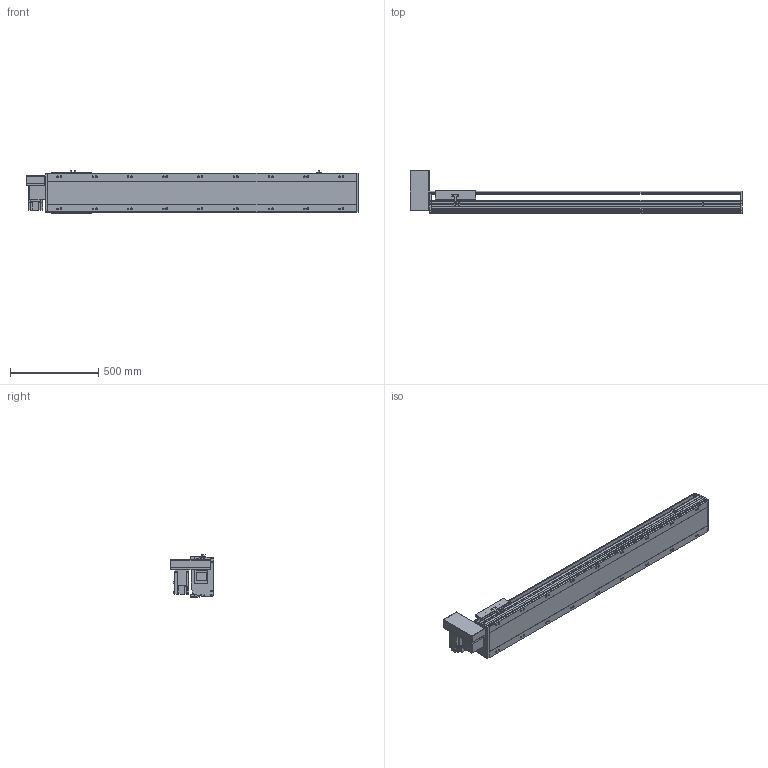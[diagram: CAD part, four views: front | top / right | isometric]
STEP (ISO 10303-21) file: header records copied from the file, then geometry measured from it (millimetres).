
FILE_DESCRIPTION(/* description */ ('STEP AP214'),/* implementation_level */ '2;1');
FILE_NAME(/* name */ 'PBS220-P40-S1400-RU-T75-C1-N(0)',/* time_stamp */ '2022-06-13T02:54:48+02:00',/* author */ ('License CC BY-ND 4.0'),/* organization */ ('CADENAS'),/* preprocessor_version */ 'ST-DEVELOPER v18.102',/* originating_system */ 'PARTsolutions',/* authorisation */ ' ');
FILE_SCHEMA (('AP242_MANAGED_MODEL_BASED_3D_ENGINEERING_MIM_LF { 1 0 10303 442 1 1 4 }','AUTOMOTIVE_DESIGN {1 0 10303 214 3 1 1}'));
Length unit declared in the file: millimetre
Products named in the file (7): PBS220-P40-S1400-RU-T75-C1-N(0); PBS220_sensor; PBS220_plant; PBS220_sliser; T75-p1; PBS220T-RU_motors; PBS220-S1400()_body
Assembly tree (8 placements, depth 2):
  PBS220-P40-S1400-RU-T75-C1-N(0)
    PBS220_sensor  x3
    PBS220_plant
    PBS220_sliser
    T75-p1
    PBS220T-RU_motors
    PBS220-S1400()_body
Bounding box: 1884 x 247 x 238.5 mm (x, y, z)
Volume: 26849079.1 mm3; surface area: 2557229.6 mm2
Topology: 8 solids, 8 shells, 926 faces, 2424 edges, 1576 vertices
Faces by surface type: plane 602, cylinder 282, cone 42
Full cylindrical faces by diameter (mm): 2.013 x4, 4.5 x14, 4.917 x4, 6 x7, 6.647 x8, 8 x10, 8.376 x18, 8.5 x18, 10 x6, 14 x18, 38 x2, 40 x1, 70 x1
Entity records: 25941 total; most frequent: CARTESIAN_POINT 4558, DIRECTION 4509, ORIENTED_EDGE 4142, EDGE_CURVE 2071, AXIS2_PLACEMENT_3D 1581, VERTEX_POINT 1432, LINE 1347, VECTOR 1347
